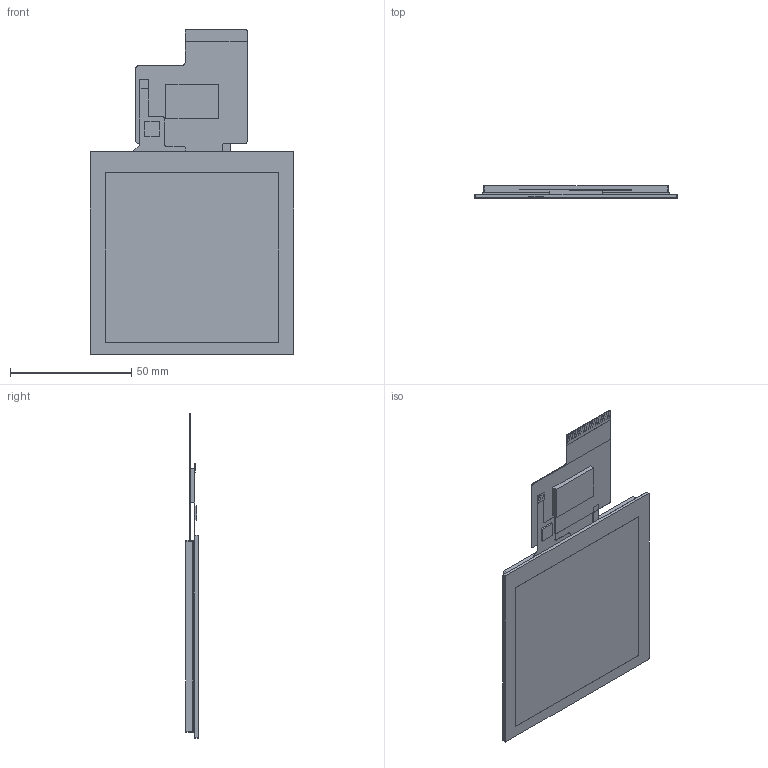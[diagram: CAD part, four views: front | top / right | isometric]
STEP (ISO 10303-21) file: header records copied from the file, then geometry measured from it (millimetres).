
FILE_DESCRIPTION (( 'STEP AP214' ), '1' );
FILE_NAME ('DMG48480F040_01WTCZ02 3D.STEP', '2023-09-14T06:37:56', ( '' ), ( 'Microsoft' ), 'SwSTEP 2.0', 'SolidWorks 2017', '' );
FILE_SCHEMA (( 'AUTOMOTIVE_DESIGN' ));
Length unit declared in the file: millimetre
Products named in the file (4): OCA; TPC040F0039G01V1(GT911)馱最芞; DMG48480F040_01WN; DMG48480F040_01WTCZ02 3D
Assembly tree (3 placements, depth 2):
  DMG48480F040_01WTCZ02 3D
    DMG48480F040_01WN
    TPC040F0039G01V1(GT911)馱最芞
    OCA
Bounding box: 84 x 5.1 x 134.15 mm (x, y, z)
Volume: 32467.4 mm3; surface area: 47344 mm2
Topology: 7 solids, 7 shells, 445 faces, 1109 edges, 740 vertices
Faces by surface type: plane 403, cylinder 42
Entity records: 18141 total; most frequent: CARTESIAN_POINT 2303, ORIENTED_EDGE 2218, DIRECTION 2098, EDGE_CURVE 1109, LINE 1020, VECTOR 1020, VERTEX_POINT 740, AXIS2_PLACEMENT_3D 539
